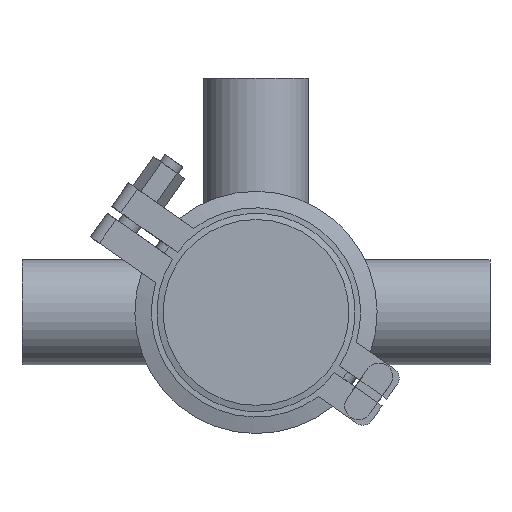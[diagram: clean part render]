
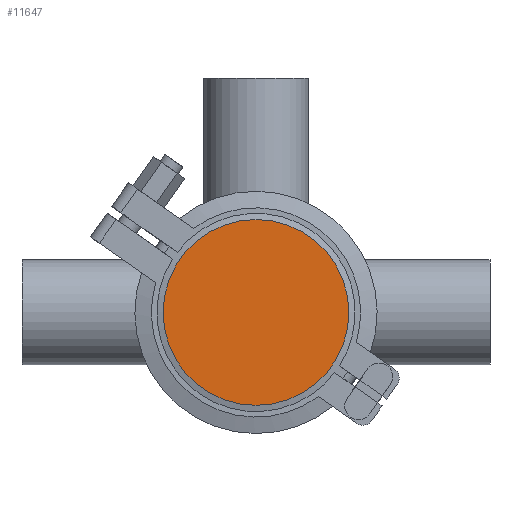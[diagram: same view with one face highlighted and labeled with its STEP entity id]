
A CAD part, front view. The second image highlights one B-rep face of the part: STEP entity #11647.
In plain terms, the highlighted planar face has unit normal (0, -1, 0).
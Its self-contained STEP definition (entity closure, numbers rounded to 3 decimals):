
#1256 = DIRECTION ( 'NONE',  ( 0., 0., 1. ) ) ;
#1630 = CIRCLE ( 'NONE', #12766, 33.75 ) ;
#5315 = DIRECTION ( 'NONE',  ( 0., -1., 0. ) ) ;
#8491 = CARTESIAN_POINT ( 'NONE',  ( -33.75, 0., 0. ) ) ;
#9621 = AXIS2_PLACEMENT_3D ( 'NONE', #8491, #5315, #19854 ) ;
#11059 = EDGE_CURVE ( 'NONE', #12123, #12123, #1630, .T. ) ;
#11647 = ADVANCED_FACE ( 'NONE', ( #11796 ), #14691, .T. ) ;
#11796 = FACE_OUTER_BOUND ( 'NONE', #15482, .T. ) ;
#12123 = VERTEX_POINT ( 'NONE', #19877 ) ;
#12766 = AXIS2_PLACEMENT_3D ( 'NONE', #15126, #19887, #1256 ) ;
#14691 = PLANE ( 'NONE',  #9621 ) ;
#15126 = CARTESIAN_POINT ( 'NONE',  ( 0., 0., 0. ) ) ;
#15482 = EDGE_LOOP ( 'NONE', ( #17056 ) ) ;
#17056 = ORIENTED_EDGE ( 'NONE', *, *, #11059, .F. ) ;
#19854 = DIRECTION ( 'NONE',  ( 0., 0., -1. ) ) ;
#19877 = CARTESIAN_POINT ( 'NONE',  ( 0., 0., 33.75 ) ) ;
#19887 = DIRECTION ( 'NONE',  ( 0., 1., 0. ) ) ;
